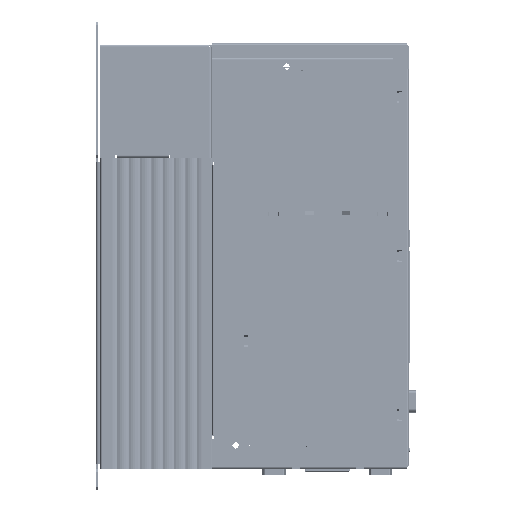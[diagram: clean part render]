
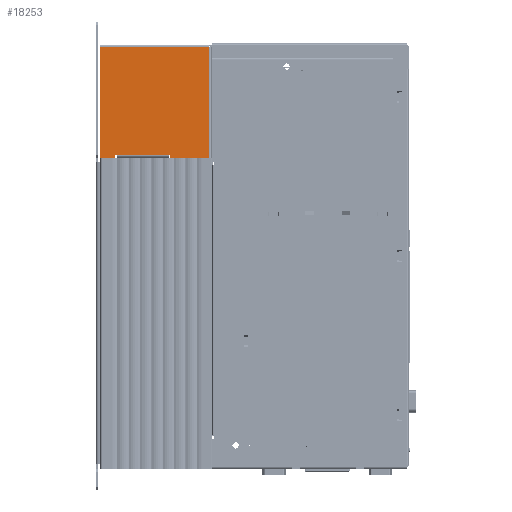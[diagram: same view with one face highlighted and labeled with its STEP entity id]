
A CAD part, left-side view. The second image highlights one B-rep face of the part: STEP entity #18253.
In plain terms, the highlighted planar face has unit normal (-1, 0, 0) as drawn and (0, 0, 1) by its records, which use the part's own axes.
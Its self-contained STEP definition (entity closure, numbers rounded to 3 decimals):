
#16248 = VERTEX_POINT ( 'NONE', #277309 ) ;
#16451 = VERTEX_POINT ( 'NONE', #277666 ) ;
#16831 = EDGE_CURVE ( 'NONE', #16451, #16248, #278090, .T. ) ;
#16902 = EDGE_CURVE ( 'NONE', #16248, #17067, #278138, .T. ) ;
#16938 = VERTEX_POINT ( 'NONE', #278239 ) ;
#16974 = EDGE_CURVE ( 'NONE', #17067, #16938, #278207, .T. ) ;
#17030 = VERTEX_POINT ( 'NONE', #278315 ) ;
#17067 = VERTEX_POINT ( 'NONE', #278397 ) ;
#17078 = VERTEX_POINT ( 'NONE', #278387 ) ;
#17090 = EDGE_CURVE ( 'NONE', #17030, #17078, #278375, .T. ) ;
#17117 = VERTEX_POINT ( 'NONE', #278556 ) ;
#17127 = EDGE_CURVE ( 'NONE', #17078, #17117, #278552, .T. ) ;
#17209 = EDGE_CURVE ( 'NONE', #17117, #16451, #278592, .T. ) ;
#17652 = VERTEX_POINT ( 'NONE', #279355 ) ;
#17689 = EDGE_CURVE ( 'NONE', #16938, #17652, #279427, .T. ) ;
#17795 = VERTEX_POINT ( 'NONE', #280157 ) ;
#17813 = EDGE_CURVE ( 'NONE', #17816, #17795, #280120, .T. ) ;
#17816 = VERTEX_POINT ( 'NONE', #280114 ) ;
#18206 = ORIENTED_EDGE ( 'NONE', *, *, #18208, .F. ) ;
#18208 = EDGE_CURVE ( 'NONE', #18210, #17795, #282220, .T. ) ;
#18210 = VERTEX_POINT ( 'NONE', #282211 ) ;
#18212 = ORIENTED_EDGE ( 'NONE', *, *, #18468, .F. ) ;
#18253 = ADVANCED_FACE ( 'NONE', ( #282378 ), #282376, .T. ) ;
#18258 = EDGE_LOOP ( 'NONE', ( #18266, #18270, #18349, #18353, #18361, #18368, #18375, #18383, #18206, #18212, #18469 ) ) ;
#18266 = ORIENTED_EDGE ( 'NONE', *, *, #17127, .T. ) ;
#18270 = ORIENTED_EDGE ( 'NONE', *, *, #17209, .T. ) ;
#18349 = ORIENTED_EDGE ( 'NONE', *, *, #16831, .T. ) ;
#18353 = ORIENTED_EDGE ( 'NONE', *, *, #16902, .T. ) ;
#18361 = ORIENTED_EDGE ( 'NONE', *, *, #16974, .T. ) ;
#18368 = ORIENTED_EDGE ( 'NONE', *, *, #17689, .T. ) ;
#18375 = ORIENTED_EDGE ( 'NONE', *, *, #18380, .F. ) ;
#18380 = EDGE_CURVE ( 'NONE', #17816, #17652, #282955, .T. ) ;
#18383 = ORIENTED_EDGE ( 'NONE', *, *, #17813, .T. ) ;
#18468 = EDGE_CURVE ( 'NONE', #17030, #18210, #283418, .T. ) ;
#18469 = ORIENTED_EDGE ( 'NONE', *, *, #17090, .T. ) ;
#277309 = CARTESIAN_POINT ( 'NONE',  ( 30.5, -13., 85. ) ) ;
#277666 = CARTESIAN_POINT ( 'NONE',  ( 30.5, -50., 85. ) ) ;
#278086 = DIRECTION ( 'NONE',  ( 0., 1., 0. ) ) ;
#278088 = VECTOR ( 'NONE', #278086, 1000. ) ;
#278089 = CARTESIAN_POINT ( 'NONE',  ( 30.5, -62., 85. ) ) ;
#278090 = LINE ( 'NONE', #278089, #278088 ) ;
#278126 = DIRECTION ( 'NONE',  ( 0., 1., 0. ) ) ;
#278127 = VECTOR ( 'NONE', #278126, 1000. ) ;
#278128 = CARTESIAN_POINT ( 'NONE',  ( 30.5, -62., 85. ) ) ;
#278138 = LINE ( 'NONE', #278128, #278127 ) ;
#278204 = DIRECTION ( 'NONE',  ( 1., 0., 0. ) ) ;
#278205 = VECTOR ( 'NONE', #278204, 1000. ) ;
#278206 = CARTESIAN_POINT ( 'NONE',  ( -47.5, -12., 85. ) ) ;
#278207 = LINE ( 'NONE', #278206, #278205 ) ;
#278239 = CARTESIAN_POINT ( 'NONE',  ( 32.5, -12., 85. ) ) ;
#278315 = CARTESIAN_POINT ( 'NONE',  ( 32.5, -62., 85. ) ) ;
#278371 = VECTOR ( 'NONE', #278453, 1000. ) ;
#278373 = CARTESIAN_POINT ( 'NONE',  ( 32.5, -62., 85. ) ) ;
#278375 = LINE ( 'NONE', #278373, #278371 ) ;
#278387 = CARTESIAN_POINT ( 'NONE',  ( 32.5, -51., 85. ) ) ;
#278397 = CARTESIAN_POINT ( 'NONE',  ( 30.5, -12., 85. ) ) ;
#278453 = DIRECTION ( 'NONE',  ( 0., 1., 0. ) ) ;
#278537 = DIRECTION ( 'NONE',  ( -1., 0., 0. ) ) ;
#278538 = VECTOR ( 'NONE', #278537, 1000. ) ;
#278540 = CARTESIAN_POINT ( 'NONE',  ( -47.5, -51., 85. ) ) ;
#278552 = LINE ( 'NONE', #278540, #278538 ) ;
#278556 = CARTESIAN_POINT ( 'NONE',  ( 30.5, -51., 85. ) ) ;
#278572 = DIRECTION ( 'NONE',  ( 0., 1., 0. ) ) ;
#278574 = VECTOR ( 'NONE', #278572, 1000. ) ;
#278577 = CARTESIAN_POINT ( 'NONE',  ( 30.5, -62., 85. ) ) ;
#278592 = LINE ( 'NONE', #278577, #278574 ) ;
#279355 = CARTESIAN_POINT ( 'NONE',  ( 32.5, 15.5, 85. ) ) ;
#279422 = DIRECTION ( 'NONE',  ( 0., 1., 0. ) ) ;
#279424 = VECTOR ( 'NONE', #279422, 1000. ) ;
#279426 = CARTESIAN_POINT ( 'NONE',  ( 32.5, -62., 85. ) ) ;
#279427 = LINE ( 'NONE', #279426, #279424 ) ;
#280114 = CARTESIAN_POINT ( 'NONE',  ( -46., 15.5, 85. ) ) ;
#280115 = DIRECTION ( 'NONE',  ( 0., -1., 0. ) ) ;
#280116 = VECTOR ( 'NONE', #280115, 1000. ) ;
#280118 = CARTESIAN_POINT ( 'NONE',  ( -46., -62., 85. ) ) ;
#280120 = LINE ( 'NONE', #280118, #280116 ) ;
#280157 = CARTESIAN_POINT ( 'NONE',  ( -46., 15., 85. ) ) ;
#282211 = CARTESIAN_POINT ( 'NONE',  ( -46., -62., 85. ) ) ;
#282215 = DIRECTION ( 'NONE',  ( 0., 1., 0. ) ) ;
#282217 = VECTOR ( 'NONE', #282215, 1000. ) ;
#282219 = CARTESIAN_POINT ( 'NONE',  ( -46., 0., 85. ) ) ;
#282220 = LINE ( 'NONE', #282219, #282217 ) ;
#282365 = DIRECTION ( 'NONE',  ( 1., 0., 0. ) ) ;
#282367 = DIRECTION ( 'NONE',  ( 0., 0., 1. ) ) ;
#282368 = AXIS2_PLACEMENT_3D ( 'NONE', #282375, #282367, #282365 ) ;
#282375 = CARTESIAN_POINT ( 'NONE',  ( -47.5, -62., 85. ) ) ;
#282376 = PLANE ( 'NONE',  #282368 ) ;
#282378 = FACE_OUTER_BOUND ( 'NONE', #18258, .T. ) ;
#282952 = DIRECTION ( 'NONE',  ( 1., 0., 0. ) ) ;
#282953 = VECTOR ( 'NONE', #282952, 1000. ) ;
#282954 = CARTESIAN_POINT ( 'NONE',  ( -47.5, 15.5, 85. ) ) ;
#282955 = LINE ( 'NONE', #282954, #282953 ) ;
#283403 = DIRECTION ( 'NONE',  ( -1., 0., 0. ) ) ;
#283404 = VECTOR ( 'NONE', #283403, 1000. ) ;
#283405 = CARTESIAN_POINT ( 'NONE',  ( -47.5, -62., 85. ) ) ;
#283418 = LINE ( 'NONE', #283405, #283404 ) ;
